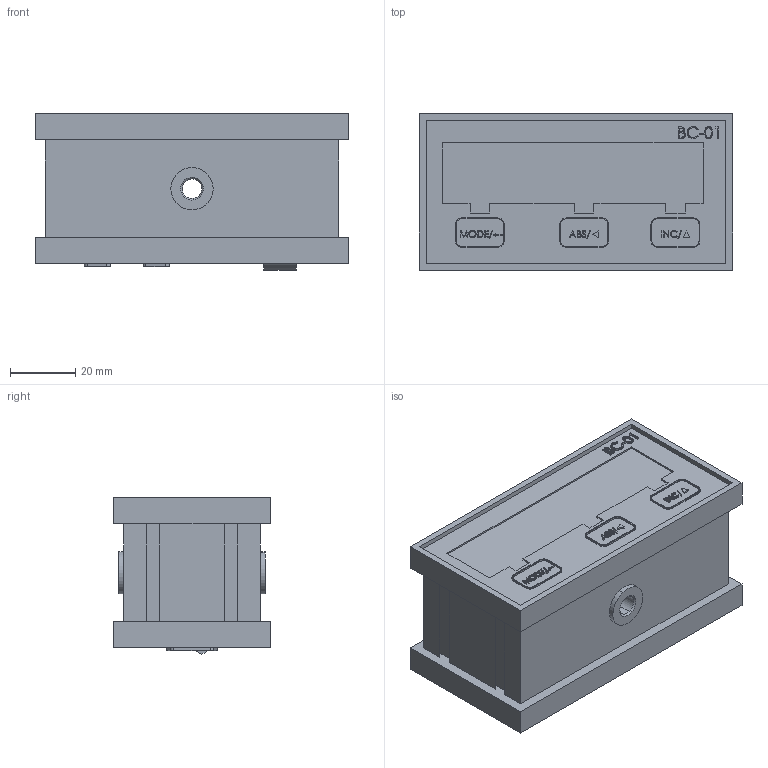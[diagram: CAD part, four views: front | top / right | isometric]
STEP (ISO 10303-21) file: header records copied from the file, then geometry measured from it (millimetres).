
FILE_DESCRIPTION (( 'STEP AP203' ), '1' );
FILE_NAME ('BC-01.STEP', '2017-10-05T17:56:57', ( '' ), ( '' ), 'SwSTEP 2.0', 'SolidWorks 2014', '' );
FILE_SCHEMA (( 'CONFIG_CONTROL_DESIGN' ));
Length unit declared in the file: millimetre
Products named in the file (11): zadní èelo; konektor; r嫥e鋀k plast 鴈na; N嵨 M6; napájecí deska; BC-01; polep pøední; vypínaè; krycí plexi; t骴o indikace; deska displejù BC-2001
Assembly tree (13 placements, depth 2):
  BC-01
    t骴o indikace
    r嫥e鋀k plast 鴈na  x2
    krycí plexi
    polep pøední
    zadní èelo
    deska displejù BC-2001
    napájecí deska
    konektor  x2
    vypínaè
    N嵨 M6  x2
Bounding box: 96 x 48 x 48 mm (x, y, z)
Volume: 79244.3 mm3; surface area: 71457.5 mm2
Topology: 13 solids, 13 shells, 816 faces, 1974 edges, 1261 vertices
Faces by surface type: plane 420, cylinder 211, torus 92, bspline 81, cone 12
Entity records: 24776 total; most frequent: CARTESIAN_POINT 8467, ORIENTED_EDGE 3176, DIRECTION 2913, EDGE_CURVE 1588, LINE 1087, VECTOR 1087, VERTEX_POINT 1031, AXIS2_PLACEMENT_3D 913
